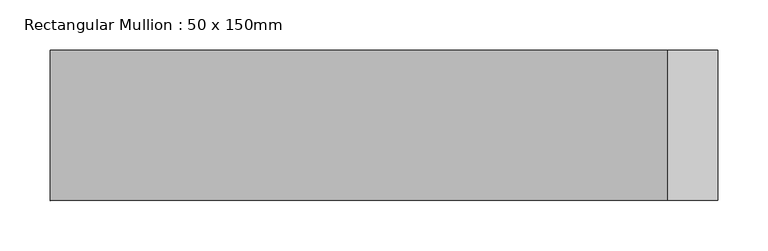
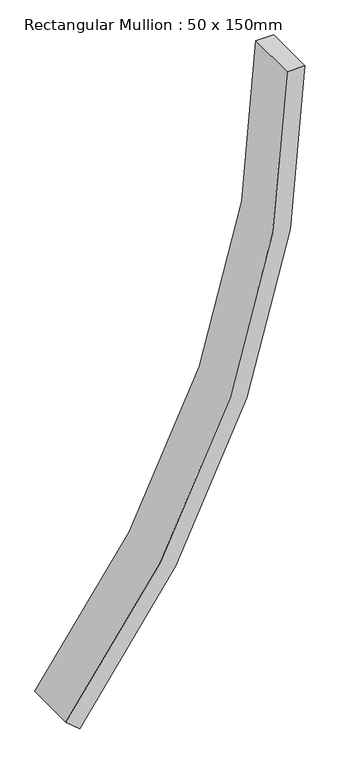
"""IFC4 building model written with IfcOpenShell, lengths in millimetres: member geometry, Rectangular Mullion : 50 x 150mm."""

from ifc_helpers import new_model, si_unit, point, frame, frame_2d, origin, place, context, project, spatial, polyline, circle_curve, trimmed, segment, composite_curve, outline, extrude, source, transform, mapped, element, save


def rectangular_mullion_50_x_150mm_6aa79e23(model_context):
    return source(origin(), model_context, "Body", "SweptSolid", [
        extrude(outline(composite_curve([segment(trimmed(circle_curve(frame_2d((0.0, -2710.0942185)), 2710.0942185), [point((-1735.473279, -628.5699762))], [point((0.0, 0.0))], False, "CARTESIAN"), True, "CONTINUOUS"), segment(polyline([(0.0, 0.0), (0.0, -50.0)]), True, "CONTINUOUS"), segment(trimmed(circle_curve(frame_2d((0.0, -2710.0942185)), 2660.0942185), [point((0.0, -50.0))], [point((-1703.45459, -666.9731474))], True, "CARTESIAN"), True, "CONTINUOUS"), segment(polyline([(-1703.45459, -666.9731474), (-1735.473279, -628.5699762)]), True, "CONTINUOUS")], self_intersect=False)), frame((0.0, -75.0, 0.0), z_axis=(0.0, 1.0, 0.0), x_axis=(0.0, 0.0, 1.0)), (0.0, 0.0, 1.0), 150.0),
    ])


if __name__ == "__main__":
    model = new_model("IFC4")
    model_context = context("Model", 3, world=origin())
    ifc_project = project(units=[si_unit("LENGTHUNIT", "METRE", prefix="MILLI")], contexts=[model_context])
    site = spatial("IfcSite", under=ifc_project)
    building = spatial("IfcBuilding", under=site)
    placement = place(None, origin())
    rectangular_mullion_50_x_150mm_shape = rectangular_mullion_50_x_150mm_6aa79e23(model_context)
    element("IfcMember", 1, ObjectType="Rectangular Mullion : 50 x 150mm", at=placement, inside=building, context=model_context, shape_type="MappedRepresentation", body=[
        mapped(rectangular_mullion_50_x_150mm_shape, transform((0.0, 0.0, 0.0), x_axis=(1.0, 0.0, 0.0), y_axis=(0.0, 1.0, 0.0), z_axis=(0.0, 0.0, 1.0))),
    ])
    save(model, "model.ifc")
